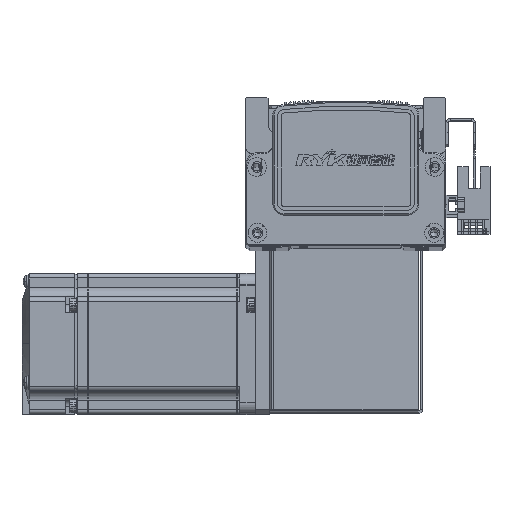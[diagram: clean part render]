
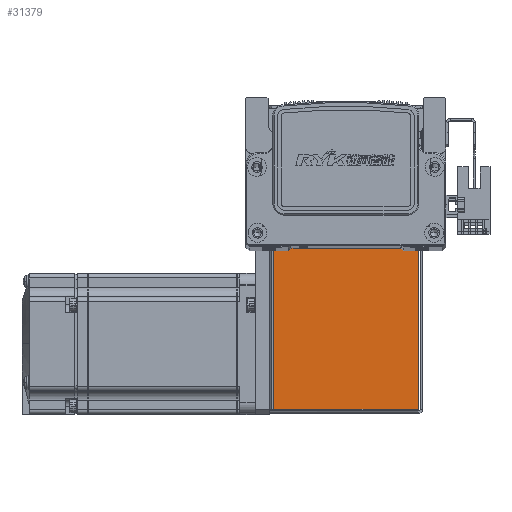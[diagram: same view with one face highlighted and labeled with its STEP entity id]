
A CAD part, top view. The second image highlights one B-rep face of the part: STEP entity #31379.
In plain terms, the highlighted planar face has unit normal (0, 0, 1) as drawn and (0, 0, -1) by its records, which use the part's own axes.
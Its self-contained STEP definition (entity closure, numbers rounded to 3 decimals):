
#10474 = EDGE_LOOP ( 'NONE', ( #28239, #28321, #28317, #28302 ) ) ;
#12944 = VERTEX_POINT ( 'NONE', #50550 ) ;
#12946 = VERTEX_POINT ( 'NONE', #50579 ) ;
#12962 = VERTEX_POINT ( 'NONE', #50676 ) ;
#12964 = VERTEX_POINT ( 'NONE', #50619 ) ;
#28239 = ORIENTED_EDGE ( 'NONE', *, *, #60744, .T. ) ;
#28302 = ORIENTED_EDGE ( 'NONE', *, *, #60633, .T. ) ;
#28317 = ORIENTED_EDGE ( 'NONE', *, *, #60687, .T. ) ;
#28321 = ORIENTED_EDGE ( 'NONE', *, *, #60709, .F. ) ;
#31379 = ADVANCED_FACE ( 'NONE', ( #47106 ), #48517, .F. ) ;
#46746 = AXIS2_PLACEMENT_3D ( 'NONE', #48508, #48492, #48488 ) ;
#47106 = FACE_OUTER_BOUND ( 'NONE', #10474, .T. ) ;
#48488 = DIRECTION ( 'NONE',  ( 0., -1., 0. ) ) ;
#48492 = DIRECTION ( 'NONE',  ( 0., 0., 1. ) ) ;
#48508 = CARTESIAN_POINT ( 'NONE',  ( 0., 0., -35. ) ) ;
#48517 = PLANE ( 'NONE',  #46746 ) ;
#50550 = CARTESIAN_POINT ( 'NONE',  ( 30.763, 0.737, -35. ) ) ;
#50579 = CARTESIAN_POINT ( 'NONE',  ( -30.793, 72.5, -35. ) ) ;
#50619 = CARTESIAN_POINT ( 'NONE',  ( -30.793, 0.737, -35. ) ) ;
#50676 = CARTESIAN_POINT ( 'NONE',  ( 30.763, 72.5, -35. ) ) ;
#56083 = CARTESIAN_POINT ( 'NONE',  ( 0., 72.5, -35. ) ) ;
#56093 = DIRECTION ( 'NONE',  ( 1., 0., 0. ) ) ;
#56243 = DIRECTION ( 'NONE',  ( 0., 1., 0. ) ) ;
#56258 = CARTESIAN_POINT ( 'NONE',  ( -30.793, 0., -35. ) ) ;
#56280 = DIRECTION ( 'NONE',  ( 1., 0., 0. ) ) ;
#56307 = CARTESIAN_POINT ( 'NONE',  ( 32.5, 0.737, -35. ) ) ;
#56393 = DIRECTION ( 'NONE',  ( 0., -1., 0. ) ) ;
#56399 = CARTESIAN_POINT ( 'NONE',  ( 30.763, 72.5, -35. ) ) ;
#60633 = EDGE_CURVE ( 'NONE', #12946, #12962, #65705, .T. ) ;
#60687 = EDGE_CURVE ( 'NONE', #12964, #12946, #65783, .T. ) ;
#60709 = EDGE_CURVE ( 'NONE', #12964, #12944, #65838, .T. ) ;
#60744 = EDGE_CURVE ( 'NONE', #12962, #12944, #65921, .T. ) ;
#65705 = LINE ( 'NONE', #56083, #65726 ) ;
#65726 = VECTOR ( 'NONE', #56093, 1000. ) ;
#65766 = VECTOR ( 'NONE', #56243, 1000. ) ;
#65783 = LINE ( 'NONE', #56258, #65766 ) ;
#65838 = LINE ( 'NONE', #56307, #65869 ) ;
#65869 = VECTOR ( 'NONE', #56280, 1000. ) ;
#65921 = LINE ( 'NONE', #56399, #65947 ) ;
#65947 = VECTOR ( 'NONE', #56393, 1000. ) ;
